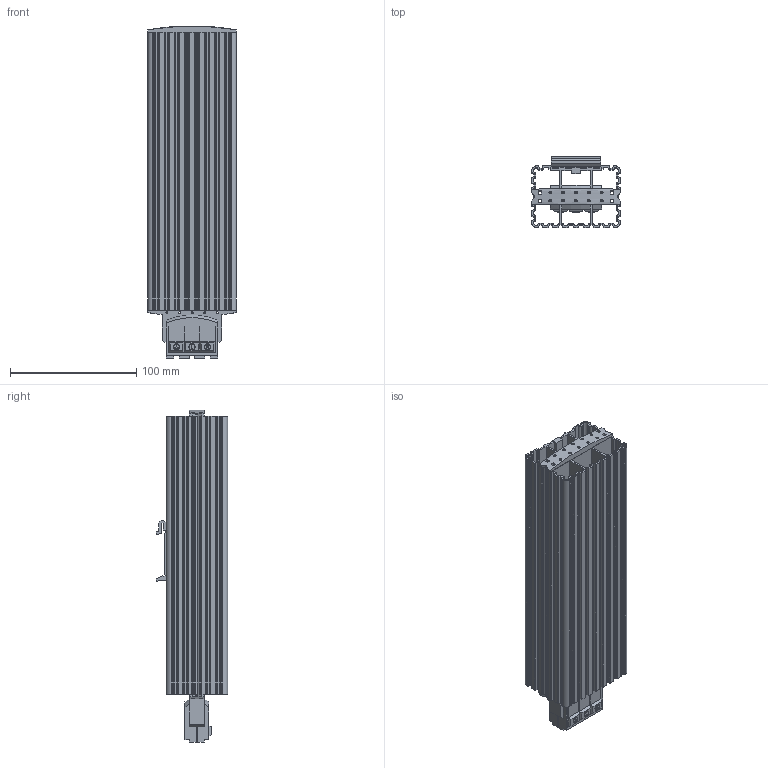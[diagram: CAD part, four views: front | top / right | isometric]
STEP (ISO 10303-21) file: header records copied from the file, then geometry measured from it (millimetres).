
FILE_DESCRIPTION (( 'STEP AP203' ), '1' );
FILE_NAME ('HG140-150W °×.STEP', '2026-01-14T05:24:46', ( 'PC' ), ( 'Microsoft' ), 'SwSTEP 2.0', 'SolidWorks 2024', '' );
FILE_SCHEMA (( 'CONFIG_CONTROL_DESIGN' ));
Length unit declared in the file: millimetre
Products named in the file (1): HG140-150W  白
Bounding box: 70.2 x 56.5 x 263 mm (x, y, z)
Volume: 308125.3 mm3; surface area: 202640.1 mm2
Topology: 4 solids, 4 shells, 691 faces, 1949 edges, 1290 vertices
Faces by surface type: plane 461, cylinder 198, bspline 30, cone 2
Entity records: 24426 total; most frequent: CARTESIAN_POINT 6359, ORIENTED_EDGE 3898, DIRECTION 3525, EDGE_CURVE 1949, VECTOR 1461, LINE 1461, VERTEX_POINT 1290, AXIS2_PLACEMENT_3D 1032
